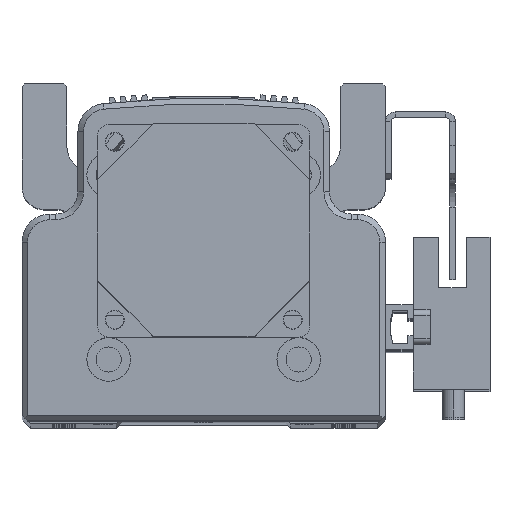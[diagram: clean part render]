
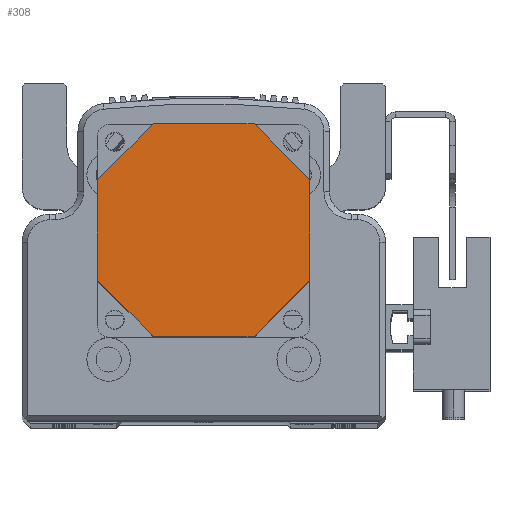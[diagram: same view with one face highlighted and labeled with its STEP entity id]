
A CAD part, top view. The second image highlights one B-rep face of the part: STEP entity #308.
In plain terms, the highlighted planar face has unit normal (0, 0, 1) as drawn and (0, 0, -1) by its records, which use the part's own axes.
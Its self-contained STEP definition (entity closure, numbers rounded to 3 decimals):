
#308 = ADVANCED_FACE ( 'NONE', ( #32065 ), #11166, .F. ) ;
#2353 = AXIS2_PLACEMENT_3D ( 'NONE', #11146, #11151, #11131 ) ;
#3357 = EDGE_CURVE ( 'NONE', #7437, #7402, #21163, .T. ) ;
#3372 = EDGE_CURVE ( 'NONE', #8276, #8272, #21122, .T. ) ;
#3373 = EDGE_CURVE ( 'NONE', #8272, #8339, #21159, .T. ) ;
#3374 = EDGE_CURVE ( 'NONE', #8294, #7437, #21151, .T. ) ;
#3386 = EDGE_CURVE ( 'NONE', #8339, #8308, #21117, .T. ) ;
#3411 = EDGE_CURVE ( 'NONE', #8308, #8294, #21199, .T. ) ;
#3414 = EDGE_CURVE ( 'NONE', #8286, #8276, #21225, .T. ) ;
#3418 = EDGE_CURVE ( 'NONE', #7402, #8286, #21183, .T. ) ;
#5922 = ORIENTED_EDGE ( 'NONE', *, *, #3374, .T. ) ;
#5924 = ORIENTED_EDGE ( 'NONE', *, *, #3386, .T. ) ;
#5925 = ORIENTED_EDGE ( 'NONE', *, *, #3373, .T. ) ;
#5927 = ORIENTED_EDGE ( 'NONE', *, *, #3357, .T. ) ;
#5929 = ORIENTED_EDGE ( 'NONE', *, *, #3411, .T. ) ;
#5936 = ORIENTED_EDGE ( 'NONE', *, *, #3372, .T. ) ;
#6466 = CARTESIAN_POINT ( 'NONE',  ( 9., -19., -84. ) ) ;
#6471 = DIRECTION ( 'NONE',  ( -1., 0., 0. ) ) ;
#6482 = CARTESIAN_POINT ( 'NONE',  ( 19., -9., -84. ) ) ;
#6507 = CARTESIAN_POINT ( 'NONE',  ( 9., 19., -84. ) ) ;
#6520 = DIRECTION ( 'NONE',  ( 1., 0., 0. ) ) ;
#6524 = DIRECTION ( 'NONE',  ( 0.707, 0.707, 0. ) ) ;
#6527 = CARTESIAN_POINT ( 'NONE',  ( -9., 19., -84. ) ) ;
#6531 = DIRECTION ( 'NONE',  ( -0.707, -0.707, 0. ) ) ;
#6561 = CARTESIAN_POINT ( 'NONE',  ( 19., 9., -84. ) ) ;
#6582 = DIRECTION ( 'NONE',  ( 0.707, -0.707, 0. ) ) ;
#6634 = DIRECTION ( 'NONE',  ( 0., -1., 0. ) ) ;
#6665 = CARTESIAN_POINT ( 'NONE',  ( 19., 9., -84. ) ) ;
#6677 = DIRECTION ( 'NONE',  ( 0., 1., 0. ) ) ;
#6682 = CARTESIAN_POINT ( 'NONE',  ( -19., 9., -84. ) ) ;
#6686 = CARTESIAN_POINT ( 'NONE',  ( -9., -19., -84. ) ) ;
#6697 = DIRECTION ( 'NONE',  ( -0.707, 0.707, 0. ) ) ;
#7402 = VERTEX_POINT ( 'NONE', #24757 ) ;
#7437 = VERTEX_POINT ( 'NONE', #24793 ) ;
#8272 = VERTEX_POINT ( 'NONE', #25569 ) ;
#8276 = VERTEX_POINT ( 'NONE', #25590 ) ;
#8286 = VERTEX_POINT ( 'NONE', #25586 ) ;
#8294 = VERTEX_POINT ( 'NONE', #25578 ) ;
#8308 = VERTEX_POINT ( 'NONE', #25591 ) ;
#8339 = VERTEX_POINT ( 'NONE', #25582 ) ;
#11131 = DIRECTION ( 'NONE',  ( 1., 0., 0. ) ) ;
#11146 = CARTESIAN_POINT ( 'NONE',  ( 0., 0., -84. ) ) ;
#11151 = DIRECTION ( 'NONE',  ( 0., 0., 1. ) ) ;
#11166 = PLANE ( 'NONE',  #2353 ) ;
#19276 = ORIENTED_EDGE ( 'NONE', *, *, #3418, .T. ) ;
#19278 = ORIENTED_EDGE ( 'NONE', *, *, #3414, .T. ) ;
#21117 = LINE ( 'NONE', #6561, #21126 ) ;
#21122 = LINE ( 'NONE', #6527, #21123 ) ;
#21123 = VECTOR ( 'NONE', #6524, 1000. ) ;
#21126 = VECTOR ( 'NONE', #6582, 1000. ) ;
#21131 = VECTOR ( 'NONE', #6471, 1000. ) ;
#21142 = VECTOR ( 'NONE', #6531, 1000. ) ;
#21151 = LINE ( 'NONE', #6482, #21142 ) ;
#21159 = LINE ( 'NONE', #6507, #21171 ) ;
#21163 = LINE ( 'NONE', #6466, #21131 ) ;
#21171 = VECTOR ( 'NONE', #6520, 1000. ) ;
#21183 = LINE ( 'NONE', #6686, #21202 ) ;
#21199 = LINE ( 'NONE', #6665, #21224 ) ;
#21202 = VECTOR ( 'NONE', #6697, 1000. ) ;
#21224 = VECTOR ( 'NONE', #6634, 1000. ) ;
#21225 = LINE ( 'NONE', #6682, #21234 ) ;
#21234 = VECTOR ( 'NONE', #6677, 1000. ) ;
#24757 = CARTESIAN_POINT ( 'NONE',  ( -9., -19., -84. ) ) ;
#24793 = CARTESIAN_POINT ( 'NONE',  ( 9., -19., -84. ) ) ;
#25569 = CARTESIAN_POINT ( 'NONE',  ( -9., 19., -84. ) ) ;
#25578 = CARTESIAN_POINT ( 'NONE',  ( 19., -9., -84. ) ) ;
#25582 = CARTESIAN_POINT ( 'NONE',  ( 9., 19., -84. ) ) ;
#25586 = CARTESIAN_POINT ( 'NONE',  ( -19., -9., -84. ) ) ;
#25590 = CARTESIAN_POINT ( 'NONE',  ( -19., 9., -84. ) ) ;
#25591 = CARTESIAN_POINT ( 'NONE',  ( 19., 9., -84. ) ) ;
#32065 = FACE_OUTER_BOUND ( 'NONE', #32129, .T. ) ;
#32129 = EDGE_LOOP ( 'NONE', ( #19276, #19278, #5936, #5925, #5924, #5929, #5922, #5927 ) ) ;
